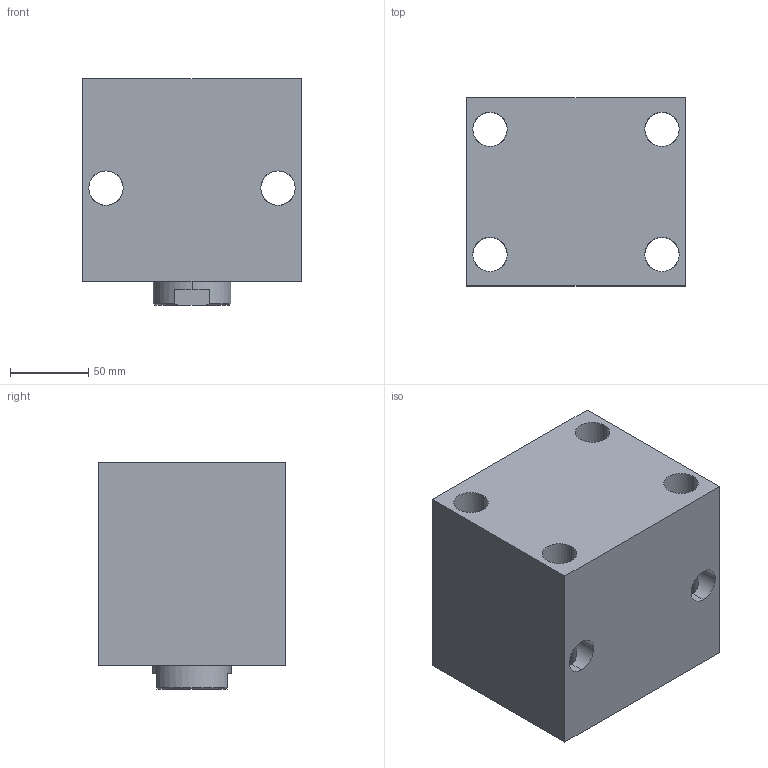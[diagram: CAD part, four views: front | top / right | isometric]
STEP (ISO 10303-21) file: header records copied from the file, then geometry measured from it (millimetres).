
FILE_DESCRIPTION (( 'STEP AP203' ), '1' );
FILE_NAME ('Block cylinder B01C-850F.STEP', '2022-07-09T18:38:52', ( '' ), ( '' ), 'SwSTEP 2.0', 'SolidWorks 2017', '' );
FILE_SCHEMA (( 'CONFIG_CONTROL_DESIGN' ));
Length unit declared in the file: millimetre
Products named in the file (3): Body_ 850F_50ST; Piston _850F; Block cylinder B01C-850F
Assembly tree (2 placements, depth 2):
  Block cylinder B01C-850F
    Body_ 850F_50ST
    Piston _850F
Bounding box: 140 x 120 x 145 mm (x, y, z)
Volume: 2024257.2 mm3; surface area: 182361 mm2
Topology: 2 solids, 2 shells, 353 faces, 963 edges, 629 vertices
Faces by surface type: bspline 165, plane 136, cylinder 44, cone 8
Entity records: 18114 total; most frequent: CARTESIAN_POINT 10075, ORIENTED_EDGE 1914, DIRECTION 1039, EDGE_CURVE 957, VERTEX_POINT 629, VECTOR 529, LINE 529, EDGE_LOOP 394
